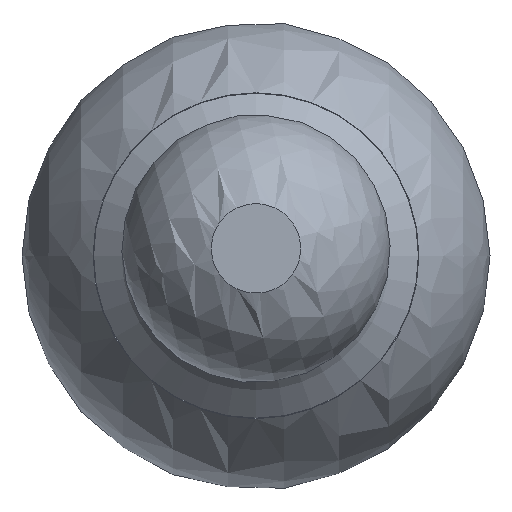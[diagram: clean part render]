
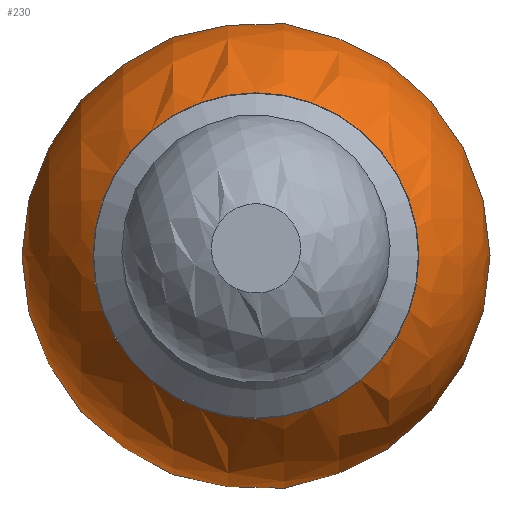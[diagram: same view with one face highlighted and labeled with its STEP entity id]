
A CAD part, top view. The second image highlights one B-rep face of the part: STEP entity #230.
In plain terms, the highlighted spherical face has radius 17 mm.
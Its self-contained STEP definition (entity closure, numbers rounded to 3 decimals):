
#53=SPHERICAL_SURFACE('',#350,17.);
#62=FACE_OUTER_BOUND('',#76,.T.);
#76=EDGE_LOOP('',(#195,#196,#197,#198,#199,#200,#201));
#98=CIRCLE('',#351,11.839);
#99=CIRCLE('',#352,17.);
#100=CIRCLE('',#353,11.839);
#101=CIRCLE('',#354,17.);
#102=CIRCLE('',#355,11.839);
#122=VERTEX_POINT('',#513);
#123=VERTEX_POINT('',#514);
#124=VERTEX_POINT('',#516);
#125=VERTEX_POINT('',#518);
#126=VERTEX_POINT('',#520);
#149=EDGE_CURVE('',#122,#123,#98,.T.);
#150=EDGE_CURVE('',#123,#124,#99,.T.);
#151=EDGE_CURVE('',#123,#125,#100,.T.);
#152=EDGE_CURVE('',#126,#125,#101,.T.);
#153=EDGE_CURVE('',#125,#122,#102,.T.);
#195=ORIENTED_EDGE('',*,*,#149,.T.);
#196=ORIENTED_EDGE('',*,*,#150,.T.);
#197=ORIENTED_EDGE('',*,*,#150,.F.);
#198=ORIENTED_EDGE('',*,*,#151,.T.);
#199=ORIENTED_EDGE('',*,*,#152,.F.);
#200=ORIENTED_EDGE('',*,*,#152,.T.);
#201=ORIENTED_EDGE('',*,*,#153,.T.);
#230=ADVANCED_FACE('',(#62),#53,.T.);
#350=AXIS2_PLACEMENT_3D('',#512,#428,#429);
#351=AXIS2_PLACEMENT_3D('',#515,#430,#431);
#352=AXIS2_PLACEMENT_3D('',#517,#432,#433);
#353=AXIS2_PLACEMENT_3D('',#519,#434,#435);
#354=AXIS2_PLACEMENT_3D('',#521,#436,#437);
#355=AXIS2_PLACEMENT_3D('',#522,#438,#439);
#428=DIRECTION('center_axis',(1.,0.,0.));
#429=DIRECTION('ref_axis',(0.,-1.,0.));
#430=DIRECTION('center_axis',(0.,-1.,0.));
#431=DIRECTION('ref_axis',(0.,0.,
1.));
#432=DIRECTION('center_axis',(0.,0.,
1.));
#433=DIRECTION('ref_axis',(0.,1.,0.));
#434=DIRECTION('center_axis',(0.,-1.,0.));
#435=DIRECTION('ref_axis',(0.,0.,
1.));
#436=DIRECTION('center_axis',(0.,0.,
1.));
#437=DIRECTION('ref_axis',(0.,1.,0.));
#438=DIRECTION('center_axis',(0.,-1.,0.));
#439=DIRECTION('ref_axis',(0.,0.,
1.));
#512=CARTESIAN_POINT('Origin',(0.,0.,
0.));
#513=CARTESIAN_POINT('',(0.,12.2,11.839));
#514=CARTESIAN_POINT('',(-11.839,12.2,0.));
#515=CARTESIAN_POINT('Origin',(0.,12.2,0.));
#516=CARTESIAN_POINT('',(-17.,0.,0.));
#517=CARTESIAN_POINT('Origin',(0.,0.,
0.));
#518=CARTESIAN_POINT('',(11.839,12.2,0.));
#519=CARTESIAN_POINT('Origin',(0.,12.2,0.));
#520=CARTESIAN_POINT('',(17.,0.,0.));
#521=CARTESIAN_POINT('Origin',(0.,0.,
0.));
#522=CARTESIAN_POINT('Origin',(0.,12.2,0.));
